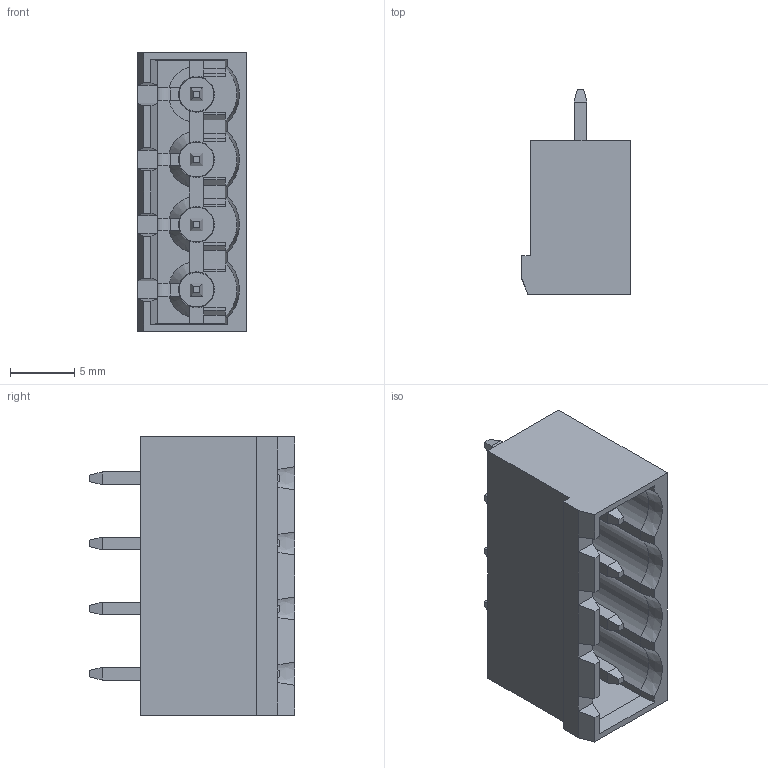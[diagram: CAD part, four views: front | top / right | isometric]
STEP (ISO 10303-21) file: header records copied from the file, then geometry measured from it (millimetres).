
FILE_DESCRIPTION(('Open CASCADE Model'),'2;1');
FILE_NAME('Open CASCADE Shape Model','2022-08-04T11:08:50',('Author'),( 'Open CASCADE'),'Open CASCADE STEP processor 6.5','Open CASCADE 6.5' ,'Unknown');
FILE_SCHEMA(('AUTOMOTIVE_DESIGN { 1 0 10303 214 1 1 1 1 }'));
Length unit declared in the file: millimetre
Products named in the file (353): CADSOFTTOOLS 1; CADSOFTTOOLS 1.1; CADSOFTTOOLS 1.2; CADSOFTTOOLS 1.3; CADSOFTTOOLS 1.4; CADSOFTTOOLS 1.5; CADSOFTTOOLS 1.6; CADSOFTTOOLS 1.7; CADSOFTTOOLS 1.8; CADSOFTTOOLS 1.9; CADSOFTTOOLS 1.10; CADSOFTTOOLS 1.11; CADSOFTTOOLS 1.12; CADSOFTTOOLS 1.13; CADSOFTTOOLS 1.14; CADSOFTTOOLS 1.15; CADSOFTTOOLS 1.16; CADSOFTTOOLS 1.17; CADSOFTTOOLS 1.18; CADSOFTTOOLS 1.19; CADSOFTTOOLS 1.20; CADSOFTTOOLS 1.21; CADSOFTTOOLS 1.22; CADSOFTTOOLS 1.23; CADSOFTTOOLS 1.24; CADSOFTTOOLS 1.25; CADSOFTTOOLS 1.26; CADSOFTTOOLS 1.27; CADSOFTTOOLS 1.28; CADSOFTTOOLS 1.29; CADSOFTTOOLS 1.30; CADSOFTTOOLS 1.31; CADSOFTTOOLS 1.32; CADSOFTTOOLS 1.33; CADSOFTTOOLS 1.34; CADSOFTTOOLS 1.35; CADSOFTTOOLS 1.36; CADSOFTTOOLS 1.37; CADSOFTTOOLS 1.38; CADSOFTTOOLS 1.39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
Assembly tree (352 placements, depth 2):
  CADSOFTTOOLS 1
    CADSOFTTOOLS 1.1
    CADSOFTTOOLS 1.2
    CADSOFTTOOLS 1.3
    CADSOFTTOOLS 1.4
    CADSOFTTOOLS 1.5
    CADSOFTTOOLS 1.6
    CADSOFTTOOLS 1.7
    CADSOFTTOOLS 1.8
    CADSOFTTOOLS 1.9
    CADSOFTTOOLS 1.10
    CADSOFTTOOLS 1.11
    CADSOFTTOOLS 1.12
    CADSOFTTOOLS 1.13
    CADSOFTTOOLS 1.14
    CADSOFTTOOLS 1.15
    CADSOFTTOOLS 1.16
    CADSOFTTOOLS 1.17
    CADSOFTTOOLS 1.18
    CADSOFTTOOLS 1.19
    CADSOFTTOOLS 1.20
    CADSOFTTOOLS 1.21
    CADSOFTTOOLS 1.22
    CADSOFTTOOLS 1.23
    CADSOFTTOOLS 1.24
    CADSOFTTOOLS 1.25
    CADSOFTTOOLS 1.26
    CADSOFTTOOLS 1.27
    CADSOFTTOOLS 1.28
    CADSOFTTOOLS 1.29
    CADSOFTTOOLS 1.30
    CADSOFTTOOLS 1.31
    CADSOFTTOOLS 1.32
    CADSOFTTOOLS 1.33
    CADSOFTTOOLS 1.34
    CADSOFTTOOLS 1.35
    CADSOFTTOOLS 1.36
    CADSOFTTOOLS 1.37
    CADSOFTTOOLS 1.38
    CADSOFTTOOLS 1.39
    CADSOFTTOOLS 1.40
    CADSOFTTOOLS 1.41
    CADSOFTTOOLS 1.42
    CADSOFTTOOLS 1.43
    CADSOFTTOOLS 1.44
    CADSOFTTOOLS 1.45
    CADSOFTTOOLS 1.46
    CADSOFTTOOLS 1.47
    CADSOFTTOOLS 1.48
    CADSOFTTOOLS 1.49
    CADSOFTTOOLS 1.50
    CADSOFTTOOLS 1.51
    CADSOFTTOOLS 1.52
    CADSOFTTOOLS 1.53
    CADSOFTTOOLS 1.54
    CADSOFTTOOLS 1.55
    CADSOFTTOOLS 1.56
    CADSOFTTOOLS 1.57
    CADSOFTTOOLS 1.58
    CADSOFTTOOLS 1.59
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Bounding box: 8.5 x 16 x 21.72 mm (x, y, z)
Surface area: 2049.8 mm2 (no closed solid volume)
Topology: 0 solids, 352 shells, 352 faces, 1826 edges, 1818 vertices
Faces by surface type: plane 307, cylinder 19, cone 18, sphere 8
Entity records: 39114 total; most frequent: CARTESIAN_POINT 8498, DIRECTION 4959, LINE 3126, VECTOR 3126, ORIENTED_EDGE 1818, EDGE_CURVE 1818, VERTEX_POINT 1818, SURFACE_CURVE 1818
